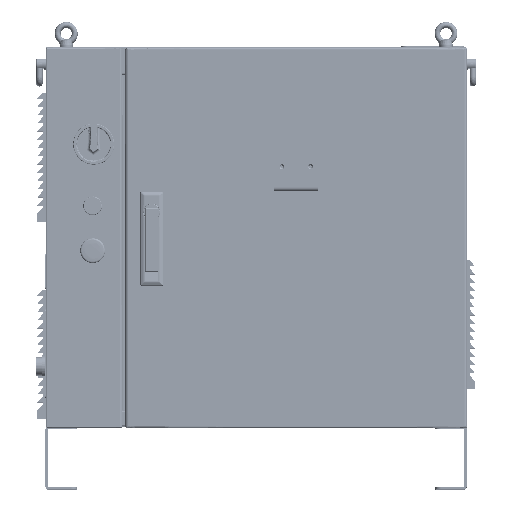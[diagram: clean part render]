
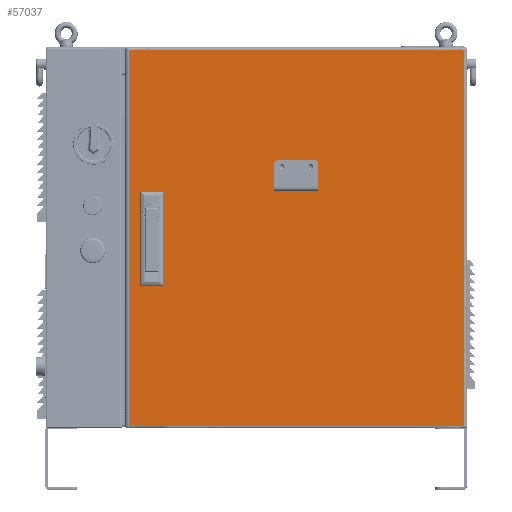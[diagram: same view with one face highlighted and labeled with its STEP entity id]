
A CAD part, top view. The second image highlights one B-rep face of the part: STEP entity #57037.
In plain terms, the highlighted planar face has unit normal (0, 0, 1).
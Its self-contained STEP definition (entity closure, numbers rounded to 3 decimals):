
#3307=LINE('',#206146,#16835);
#3308=LINE('',#206149,#16836);
#3309=LINE('',#206151,#16837);
#3310=LINE('',#206153,#16838);
#3311=LINE('',#206154,#16839);
#3312=LINE('',#206157,#16840);
#3313=LINE('',#206159,#16841);
#3314=LINE('',#206161,#16842);
#3315=LINE('',#206174,#16843);
#3316=LINE('',#206191,#16844);
#16835=VECTOR('',#166620,1.);
#16836=VECTOR('',#166621,1.);
#16837=VECTOR('',#166622,1.);
#16838=VECTOR('',#166623,1.);
#16839=VECTOR('',#166624,1.);
#16840=VECTOR('',#166625,1.);
#16841=VECTOR('',#166626,1.);
#16842=VECTOR('',#166627,1.);
#16843=VECTOR('',#166628,1.);
#16844=VECTOR('',#166629,1.);
#51016=B_SPLINE_CURVE_WITH_KNOTS('',3,(#206162,#206163,#206164,#206165,
#206166,#206167,#206168,#206169,#206170,#206171),.UNSPECIFIED.,.F.,.F.,
(4,3,3,4),(0.,0.813,0.909,1.),.UNSPECIFIED.);
#51017=B_SPLINE_CURVE_WITH_KNOTS('',3,(#206176,#206177,#206178,#206179),
 .UNSPECIFIED.,.F.,.F.,(4,4),(0.,1.),.UNSPECIFIED.);
#51018=B_SPLINE_CURVE_WITH_KNOTS('',3,(#206181,#206182,#206183,#206184),
 .UNSPECIFIED.,.F.,.F.,(4,4),(0.,1.),.UNSPECIFIED.);
#51019=B_SPLINE_CURVE_WITH_KNOTS('',3,(#206186,#206187,#206188,#206189),
 .UNSPECIFIED.,.F.,.F.,(4,4),(0.,1.),.UNSPECIFIED.);
#52083=PLANE('',#153831);
#57037=ADVANCED_FACE('',(#66400,#66401,#66402,#66403,#66404,#66405,#66406),
#52083,.F.);
#66400=FACE_BOUND('',#69199,.T.);
#66401=FACE_BOUND('',#69200,.T.);
#66402=FACE_BOUND('',#69201,.T.);
#66403=FACE_BOUND('',#69202,.T.);
#66404=FACE_BOUND('',#69203,.T.);
#66405=FACE_BOUND('',#69204,.T.);
#66406=FACE_BOUND('',#69205,.T.);
#69199=EDGE_LOOP('',(#79275));
#69200=EDGE_LOOP('',(#79276));
#69201=EDGE_LOOP('',(#79277));
#69202=EDGE_LOOP('',(#79278));
#69203=EDGE_LOOP('',(#79279,#79280,#79281,#79282));
#69204=EDGE_LOOP('',(#79283,#79284,#79285,#79286));
#69205=EDGE_LOOP('',(#79287,#79288,#79289,#79290,#79291,#79292));
#79275=ORIENTED_EDGE('',*,*,#129981,.T.);
#79276=ORIENTED_EDGE('',*,*,#129982,.T.);
#79277=ORIENTED_EDGE('',*,*,#129983,.T.);
#79278=ORIENTED_EDGE('',*,*,#129984,.T.);
#79279=ORIENTED_EDGE('',*,*,#129985,.T.);
#79280=ORIENTED_EDGE('',*,*,#129986,.T.);
#79281=ORIENTED_EDGE('',*,*,#129987,.T.);
#79282=ORIENTED_EDGE('',*,*,#129988,.T.);
#79283=ORIENTED_EDGE('',*,*,#129989,.T.);
#79284=ORIENTED_EDGE('',*,*,#129990,.T.);
#79285=ORIENTED_EDGE('',*,*,#129991,.T.);
#79286=ORIENTED_EDGE('',*,*,#129992,.T.);
#79287=ORIENTED_EDGE('',*,*,#129993,.T.);
#79288=ORIENTED_EDGE('',*,*,#129994,.T.);
#79289=ORIENTED_EDGE('',*,*,#129995,.T.);
#79290=ORIENTED_EDGE('',*,*,#129996,.T.);
#79291=ORIENTED_EDGE('',*,*,#129997,.T.);
#79292=ORIENTED_EDGE('',*,*,#129998,.F.);
#117277=VERTEX_POINT('',#206139);
#117278=VERTEX_POINT('',#206141);
#117279=VERTEX_POINT('',#206143);
#117280=VERTEX_POINT('',#206145);
#117281=VERTEX_POINT('',#206147);
#117282=VERTEX_POINT('',#206148);
#117283=VERTEX_POINT('',#206150);
#117284=VERTEX_POINT('',#206152);
#117285=VERTEX_POINT('',#206155);
#117286=VERTEX_POINT('',#206156);
#117287=VERTEX_POINT('',#206158);
#117288=VERTEX_POINT('',#206160);
#117289=VERTEX_POINT('',#206172);
#117290=VERTEX_POINT('',#206173);
#117291=VERTEX_POINT('',#206175);
#117292=VERTEX_POINT('',#206180);
#117293=VERTEX_POINT('',#206185);
#117294=VERTEX_POINT('',#206190);
#129981=EDGE_CURVE('',#117277,#117277,#148933,.T.);
#129982=EDGE_CURVE('',#117278,#117278,#148934,.T.);
#129983=EDGE_CURVE('',#117279,#117279,#148935,.T.);
#129984=EDGE_CURVE('',#117280,#117280,#148936,.T.);
#129985=EDGE_CURVE('',#117281,#117282,#3307,.T.);
#129986=EDGE_CURVE('',#117282,#117283,#3308,.T.);
#129987=EDGE_CURVE('',#117283,#117284,#3309,.T.);
#129988=EDGE_CURVE('',#117284,#117281,#3310,.T.);
#129989=EDGE_CURVE('',#117285,#117286,#3311,.T.);
#129990=EDGE_CURVE('',#117286,#117287,#3312,.T.);
#129991=EDGE_CURVE('',#117287,#117288,#3313,.T.);
#129992=EDGE_CURVE('',#117288,#117285,#3314,.T.);
#129993=EDGE_CURVE('',#117289,#117290,#51016,.T.);
#129994=EDGE_CURVE('',#117290,#117291,#3315,.T.);
#129995=EDGE_CURVE('',#117291,#117292,#51017,.T.);
#129996=EDGE_CURVE('',#117292,#117293,#51018,.T.);
#129997=EDGE_CURVE('',#117293,#117294,#51019,.T.);
#129998=EDGE_CURVE('',#117289,#117294,#3316,.T.);
#148933=CIRCLE('',#153827,1.6);
#148934=CIRCLE('',#153828,1.6);
#148935=CIRCLE('',#153829,2.1);
#148936=CIRCLE('',#153830,2.1);
#153827=AXIS2_PLACEMENT_3D('',#206138,#166612,#166613);
#153828=AXIS2_PLACEMENT_3D('',#206140,#166614,#166615);
#153829=AXIS2_PLACEMENT_3D('',#206142,#166616,#166617);
#153830=AXIS2_PLACEMENT_3D('',#206144,#166618,#166619);
#153831=AXIS2_PLACEMENT_3D('',#206192,#166630,#166631);
#166612=DIRECTION('',(0.,0.,-1.));
#166613=DIRECTION('',(-1.,0.,0.));
#166614=DIRECTION('',(0.,0.,-1.));
#166615=DIRECTION('',(-1.,0.,0.));
#166616=DIRECTION('',(0.,0.,-1.));
#166617=DIRECTION('',(-1.,0.,0.));
#166618=DIRECTION('',(0.,0.,-1.));
#166619=DIRECTION('',(-1.,0.,0.));
#166620=DIRECTION('',(0.,1.,0.));
#166621=DIRECTION('',(1.,0.,0.));
#166622=DIRECTION('',(0.,-1.,0.));
#166623=DIRECTION('',(-1.,0.,0.));
#166624=DIRECTION('',(-1.,0.,0.));
#166625=DIRECTION('',(0.,1.,0.));
#166626=DIRECTION('',(1.,0.,0.));
#166627=DIRECTION('',(0.,-1.,0.));
#166628=DIRECTION('',(0.,-1.,0.));
#166629=DIRECTION('',(0.,-1.,0.));
#166630=DIRECTION('',(0.,0.,-1.));
#166631=DIRECTION('',(-1.,0.,0.));
#206138=CARTESIAN_POINT('',(-1143.181,102.731,56.76));
#206139=CARTESIAN_POINT('',(-1144.781,102.731,56.76));
#206140=CARTESIAN_POINT('',(-1188.181,102.731,56.76));
#206141=CARTESIAN_POINT('',(-1189.781,102.731,56.76));
#206142=CARTESIAN_POINT('',(-1394.,54.5,56.76));
#206143=CARTESIAN_POINT('',(-1396.1,54.5,56.76));
#206144=CARTESIAN_POINT('',(-1394.,7.5,56.76));
#206145=CARTESIAN_POINT('',(-1396.1,7.5,56.76));
#206146=CARTESIAN_POINT('',(-1406.25,-239.764,56.76));
#206147=CARTESIAN_POINT('',(-1406.25,-79.7,56.76));
#206148=CARTESIAN_POINT('',(-1406.25,-37.2,56.76));
#206149=CARTESIAN_POINT('',(-1378.5,-37.2,56.76));
#206150=CARTESIAN_POINT('',(-1381.75,-37.2,56.76));
#206151=CARTESIAN_POINT('',(-1381.75,-239.764,56.76));
#206152=CARTESIAN_POINT('',(-1381.75,-79.7,56.76));
#206153=CARTESIAN_POINT('',(-1378.5,-79.7,56.76));
#206154=CARTESIAN_POINT('',(-1378.5,14.5,56.76));
#206155=CARTESIAN_POINT('',(-1383.5,14.5,56.76));
#206156=CARTESIAN_POINT('',(-1404.5,14.5,56.76));
#206157=CARTESIAN_POINT('',(-1404.5,-239.764,56.76));
#206158=CARTESIAN_POINT('',(-1404.5,47.5,56.76));
#206159=CARTESIAN_POINT('',(-1378.5,47.5,56.76));
#206160=CARTESIAN_POINT('',(-1383.5,47.5,56.76));
#206161=CARTESIAN_POINT('',(-1383.5,-239.764,56.76));
#206162=CARTESIAN_POINT('',(-899.681,287.431,56.76));
#206163=CARTESIAN_POINT('',(-1056.426,287.431,56.76));
#206164=CARTESIAN_POINT('',(-1213.171,287.431,56.76));
#206165=CARTESIAN_POINT('',(-1369.916,287.431,56.76));
#206166=CARTESIAN_POINT('',(-1388.505,287.431,56.76));
#206167=CARTESIAN_POINT('',(-1407.093,287.431,56.76));
#206168=CARTESIAN_POINT('',(-1425.681,287.431,56.76));
#206169=CARTESIAN_POINT('',(-1443.214,287.431,56.76));
#206170=CARTESIAN_POINT('',(-1460.748,287.431,56.76));
#206171=CARTESIAN_POINT('',(-1478.281,287.431,56.76));
#206172=CARTESIAN_POINT('',(-899.681,287.431,56.76));
#206173=CARTESIAN_POINT('',(-1430.681,287.431,56.76));
#206174=CARTESIAN_POINT('',(-1430.681,290.431,56.76));
#206175=CARTESIAN_POINT('',(-1430.681,-306.569,56.76));
#206176=CARTESIAN_POINT('',(-1430.681,-306.569,56.76));
#206177=CARTESIAN_POINT('',(-1273.936,-306.569,56.76));
#206178=CARTESIAN_POINT('',(-1117.19,-306.569,56.76));
#206179=CARTESIAN_POINT('',(-960.445,-306.569,56.76));
#206180=CARTESIAN_POINT('',(-1425.681,-306.569,56.76));
#206181=CARTESIAN_POINT('',(-1425.681,-306.569,56.76));
#206182=CARTESIAN_POINT('',(-1405.426,-306.569,56.76));
#206183=CARTESIAN_POINT('',(-1385.171,-306.569,56.76));
#206184=CARTESIAN_POINT('',(-1364.916,-306.569,56.76));
#206185=CARTESIAN_POINT('',(-1364.916,-306.569,56.76));
#206186=CARTESIAN_POINT('',(-1369.916,-306.569,56.76));
#206187=CARTESIAN_POINT('',(-1213.171,-306.569,56.76));
#206188=CARTESIAN_POINT('',(-1056.426,-306.569,56.76));
#206189=CARTESIAN_POINT('',(-899.681,-306.569,56.76));
#206190=CARTESIAN_POINT('',(-899.681,-306.569,56.76));
#206191=CARTESIAN_POINT('',(-899.681,-10.634,56.76));
#206192=CARTESIAN_POINT('',(-1550.916,290.431,56.76));
